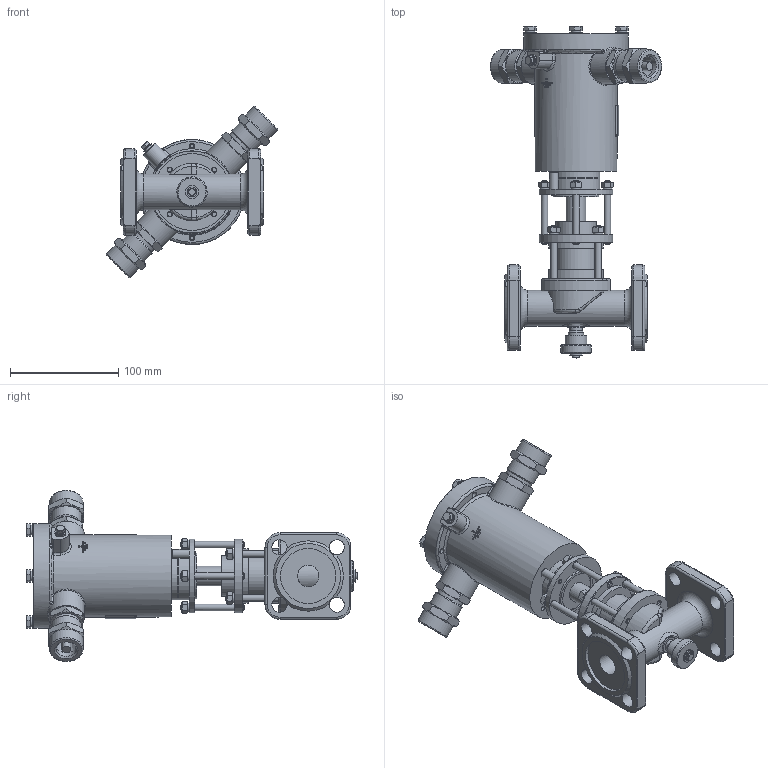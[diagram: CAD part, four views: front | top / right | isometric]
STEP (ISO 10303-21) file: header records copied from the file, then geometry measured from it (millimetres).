
FILE_DESCRIPTION(('STEP AP203'), '1');
FILE_NAME('ÑÅÍÑ DN20PN25-Â-200Ñ.stp', '2018-09-19T08:48:38', ('Îðëîâ Å.Â.'), ('ÎÎÎ ÍÏÏ Ñåíñîð'), 'ASCON STEP Converter 1.3', 'Kompas 3D', '');
FILE_SCHEMA(('CONFIG_CONTROL_DESIGN','SUPPORT_RESOURCE_SCHEMA'));
Length unit declared in the file: millimetre
Products named in the file (1): 63
Bounding box: 158.26 x 306.7 x 158.26 mm (x, y, z)
Volume: 722837.6 mm3; surface area: 243166 mm2
Topology: 3 solids, 19 shells, 2092 faces, 5490 edges, 3569 vertices
Faces by surface type: cylinder 1054, plane 790, cone 157, torus 40, bspline 35, extrusion 16
Full cylindrical faces by diameter (mm): 2.459 x4, 4 x8, 4.134 x1, 4.5 x2, 4.917 x4, 5 x6, 5.1 x1, 6 x28, 6.1 x1, 6.3 x2, 6.4 x1, 6.5 x15, 7 x1, 8 x7, 9 x1, 10 x3, 11.5 x1, 12 x5, 12.376 x1, 13 x2, 14 x9, 15 x1, 16 x1, 18 x1, 18.632 x2, 20 x6, 20.5 x1, 22 x2, 22.376 x2, 22.5 x1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
Entity records: 81930 total; most frequent: CARTESIAN_POINT 29005, DIRECTION 11480, ORIENTED_EDGE 10956, EDGE_CURVE 5478, AXIS2_PLACEMENT_3D 4444, VERTEX_POINT 3569, VECTOR 2592, LINE 2576
